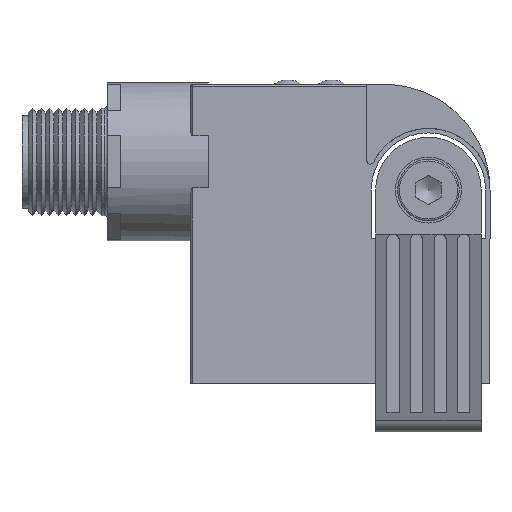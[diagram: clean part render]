
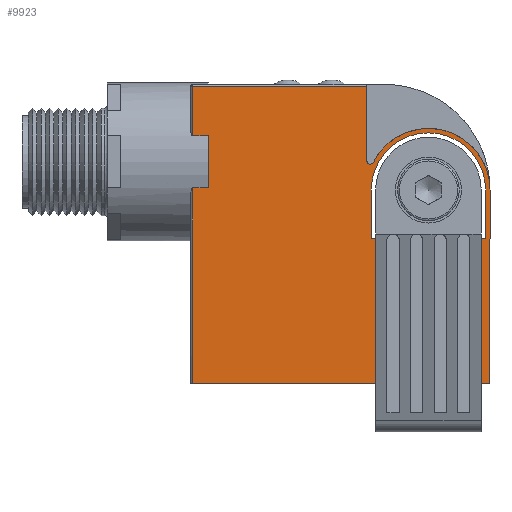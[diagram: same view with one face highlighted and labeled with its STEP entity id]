
A CAD part, front view. The second image highlights one B-rep face of the part: STEP entity #9923.
In plain terms, the highlighted planar face has unit normal (0, -1, 0).
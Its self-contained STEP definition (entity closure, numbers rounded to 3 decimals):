
#7507=CARTESIAN_POINT('',(10.44,-7.721,14.5));
#7508=VERTEX_POINT('',#7507);
#7518=CARTESIAN_POINT('',(15.94,-7.721,14.5));
#7519=VERTEX_POINT('',#7518);
#7520=CARTESIAN_POINT('',(10.44,-7.721,14.5));
#7521=DIRECTION('',(1.0,0.0,0.0));
#7522=VECTOR('',#7521,5.5);
#7523=LINE('',#7520,#7522);
#7524=EDGE_CURVE('',#7508,#7519,#7523,.T.);
#9229=CARTESIAN_POINT('',(-13.61,-7.721,0.0));
#9230=VERTEX_POINT('',#9229);
#9238=CARTESIAN_POINT('',(-13.61,-7.721,22.242));
#9239=VERTEX_POINT('',#9238);
#9240=CARTESIAN_POINT('',(-13.61,-7.721,0.0));
#9241=DIRECTION('',(0.0,0.0,1.0));
#9242=VECTOR('',#9241,22.242);
#9243=LINE('',#9240,#9242);
#9244=EDGE_CURVE('',#9230,#9239,#9243,.T.);
#9518=CARTESIAN_POINT('',(6.19,-7.721,33.8));
#9519=VERTEX_POINT('',#9518);
#9543=CARTESIAN_POINT('',(-13.61,-7.721,33.8));
#9544=VERTEX_POINT('',#9543);
#9583=CARTESIAN_POINT('',(-13.61,-7.721,33.8));
#9584=DIRECTION('',(1.0,0.0,0.0));
#9585=VECTOR('',#9584,19.8);
#9586=LINE('',#9583,#9585);
#9587=EDGE_CURVE('',#9544,#9519,#9586,.T.);
#9600=CARTESIAN_POINT('',(-13.61,-7.721,28.158));
#9601=VERTEX_POINT('',#9600);
#9618=CARTESIAN_POINT('',(-13.61,-7.721,28.158));
#9619=DIRECTION('',(0.0,0.0,1.0));
#9620=VECTOR('',#9619,5.642);
#9621=LINE('',#9618,#9620);
#9622=EDGE_CURVE('',#9601,#9544,#9621,.T.);
#9782=CARTESIAN_POINT('',(-11.81,-7.721,28.158));
#9783=VERTEX_POINT('',#9782);
#9784=CARTESIAN_POINT('',(-11.81,-7.721,22.242));
#9785=VERTEX_POINT('',#9784);
#9786=CARTESIAN_POINT('',(-11.81,-7.721,28.158));
#9787=DIRECTION('',(0.0,0.0,-1.0));
#9788=VECTOR('',#9787,5.916);
#9789=LINE('',#9786,#9788);
#9790=EDGE_CURVE('',#9783,#9785,#9789,.T.);
#9802=CARTESIAN_POINT('',(2.419,-7.721,16.482));
#9803=DIRECTION('',(0.0,-1.0,0.0));
#9804=DIRECTION('',(1.0,0.0,0.0));
#9805=AXIS2_PLACEMENT_3D('',#9802,#9803,#9804);
#9806=PLANE('',#9805);
#9807=ORIENTED_EDGE('',*,*,#9244,.F.);
#9808=CARTESIAN_POINT('',(20.19,-7.721,0.0));
#9809=VERTEX_POINT('',#9808);
#9810=CARTESIAN_POINT('',(-13.61,-7.721,0.0));
#9811=DIRECTION('',(1.0,0.0,0.0));
#9812=VECTOR('',#9811,33.8);
#9813=LINE('',#9810,#9812);
#9814=EDGE_CURVE('',#9230,#9809,#9813,.T.);
#9815=ORIENTED_EDGE('',*,*,#9814,.T.);
#9816=CARTESIAN_POINT('',(20.19,-7.721,22.));
#9817=VERTEX_POINT('',#9816);
#9818=CARTESIAN_POINT('',(20.19,-7.721,0.0));
#9819=DIRECTION('',(0.0,0.0,1.0));
#9820=VECTOR('',#9819,22.);
#9821=LINE('',#9818,#9820);
#9822=EDGE_CURVE('',#9809,#9817,#9821,.T.);
#9823=ORIENTED_EDGE('',*,*,#9822,.T.);
#9824=CARTESIAN_POINT('',(6.947,-7.721,25.166));
#9825=VERTEX_POINT('',#9824);
#9826=CARTESIAN_POINT('',(13.19,-7.721,22.));
#9827=DIRECTION('',(0.0,-1.0,0.0));
#9828=DIRECTION('',(1.0,0.0,0.0));
#9829=AXIS2_PLACEMENT_3D('',#9826,#9827,#9828);
#9830=CIRCLE('',#9829,7.);
#9831=EDGE_CURVE('',#9817,#9825,#9830,.T.);
#9832=ORIENTED_EDGE('',*,*,#9831,.T.);
#9833=CARTESIAN_POINT('',(6.19,-7.721,25.347));
#9834=VERTEX_POINT('',#9833);
#9835=CARTESIAN_POINT('',(6.59,-7.721,25.347));
#9836=DIRECTION('',(0.0,1.0,0.0));
#9837=DIRECTION('',(1.0,0.0,0.0));
#9838=AXIS2_PLACEMENT_3D('',#9835,#9836,#9837);
#9839=CIRCLE('',#9838,0.4);
#9840=EDGE_CURVE('',#9825,#9834,#9839,.T.);
#9841=ORIENTED_EDGE('',*,*,#9840,.T.);
#9842=CARTESIAN_POINT('',(6.19,-7.721,25.347));
#9843=DIRECTION('',(0.0,0.0,1.0));
#9844=VECTOR('',#9843,8.453);
#9845=LINE('',#9842,#9844);
#9846=EDGE_CURVE('',#9834,#9519,#9845,.T.);
#9847=ORIENTED_EDGE('',*,*,#9846,.T.);
#9848=ORIENTED_EDGE('',*,*,#9587,.F.);
#9849=ORIENTED_EDGE('',*,*,#9622,.F.);
#9850=CARTESIAN_POINT('',(-13.61,-7.721,28.158));
#9851=DIRECTION('',(1.0,0.0,0.0));
#9852=VECTOR('',#9851,1.8);
#9853=LINE('',#9850,#9852);
#9854=EDGE_CURVE('',#9601,#9783,#9853,.T.);
#9855=ORIENTED_EDGE('',*,*,#9854,.T.);
#9856=ORIENTED_EDGE('',*,*,#9790,.T.);
#9857=CARTESIAN_POINT('',(-11.81,-7.721,22.242));
#9858=DIRECTION('',(-1.0,0.0,0.0));
#9859=VECTOR('',#9858,1.8);
#9860=LINE('',#9857,#9859);
#9861=EDGE_CURVE('',#9785,#9239,#9860,.T.);
#9862=ORIENTED_EDGE('',*,*,#9861,.T.);
#9863=EDGE_LOOP('',(#9807,#9815,#9823,#9832,#9841,#9847,#9848,#9849,#9855,#9856,#9862));
#9864=FACE_OUTER_BOUND('',#9863,.T.);
#9865=CARTESIAN_POINT('',(10.44,-7.721,16.5));
#9866=VERTEX_POINT('',#9865);
#9867=CARTESIAN_POINT('',(10.44,-7.721,14.5));
#9868=DIRECTION('',(0.0,0.0,1.0));
#9869=VECTOR('',#9868,2.);
#9870=LINE('',#9867,#9869);
#9871=EDGE_CURVE('',#7508,#9866,#9870,.T.);
#9872=ORIENTED_EDGE('',*,*,#9871,.T.);
#9873=CARTESIAN_POINT('',(6.69,-7.721,16.5));
#9874=VERTEX_POINT('',#9873);
#9875=CARTESIAN_POINT('',(10.44,-7.721,16.5));
#9876=DIRECTION('',(-1.0,0.0,0.0));
#9877=VECTOR('',#9876,3.75);
#9878=LINE('',#9875,#9877);
#9879=EDGE_CURVE('',#9866,#9874,#9878,.T.);
#9880=ORIENTED_EDGE('',*,*,#9879,.T.);
#9881=CARTESIAN_POINT('',(6.69,-7.721,22.));
#9882=VERTEX_POINT('',#9881);
#9883=CARTESIAN_POINT('',(6.69,-7.721,16.5));
#9884=DIRECTION('',(0.0,0.0,1.0));
#9885=VECTOR('',#9884,5.5);
#9886=LINE('',#9883,#9885);
#9887=EDGE_CURVE('',#9874,#9882,#9886,.T.);
#9888=ORIENTED_EDGE('',*,*,#9887,.T.);
#9889=CARTESIAN_POINT('',(19.69,-7.721,22.));
#9890=VERTEX_POINT('',#9889);
#9891=CARTESIAN_POINT('',(13.19,-7.721,22.));
#9892=DIRECTION('',(0.0,1.0,0.0));
#9893=DIRECTION('',(-1.0,0.0,0.0));
#9894=AXIS2_PLACEMENT_3D('',#9891,#9892,#9893);
#9895=CIRCLE('',#9894,6.5);
#9896=EDGE_CURVE('',#9882,#9890,#9895,.T.);
#9897=ORIENTED_EDGE('',*,*,#9896,.T.);
#9898=CARTESIAN_POINT('',(19.69,-7.721,16.5));
#9899=VERTEX_POINT('',#9898);
#9900=CARTESIAN_POINT('',(19.69,-7.721,22.));
#9901=DIRECTION('',(0.0,0.0,-1.0));
#9902=VECTOR('',#9901,5.5);
#9903=LINE('',#9900,#9902);
#9904=EDGE_CURVE('',#9890,#9899,#9903,.T.);
#9905=ORIENTED_EDGE('',*,*,#9904,.T.);
#9906=CARTESIAN_POINT('',(15.94,-7.721,16.5));
#9907=VERTEX_POINT('',#9906);
#9908=CARTESIAN_POINT('',(19.69,-7.721,16.5));
#9909=DIRECTION('',(-1.0,0.0,0.0));
#9910=VECTOR('',#9909,3.75);
#9911=LINE('',#9908,#9910);
#9912=EDGE_CURVE('',#9899,#9907,#9911,.T.);
#9913=ORIENTED_EDGE('',*,*,#9912,.T.);
#9914=CARTESIAN_POINT('',(15.94,-7.721,16.5));
#9915=DIRECTION('',(0.0,0.0,-1.0));
#9916=VECTOR('',#9915,2.);
#9917=LINE('',#9914,#9916);
#9918=EDGE_CURVE('',#9907,#7519,#9917,.T.);
#9919=ORIENTED_EDGE('',*,*,#9918,.T.);
#9920=ORIENTED_EDGE('',*,*,#7524,.F.);
#9921=EDGE_LOOP('',(#9872,#9880,#9888,#9897,#9905,#9913,#9919,#9920));
#9922=FACE_BOUND('',#9921,.T.);
#9923=ADVANCED_FACE('',(#9864,#9922),#9806,.T.);
